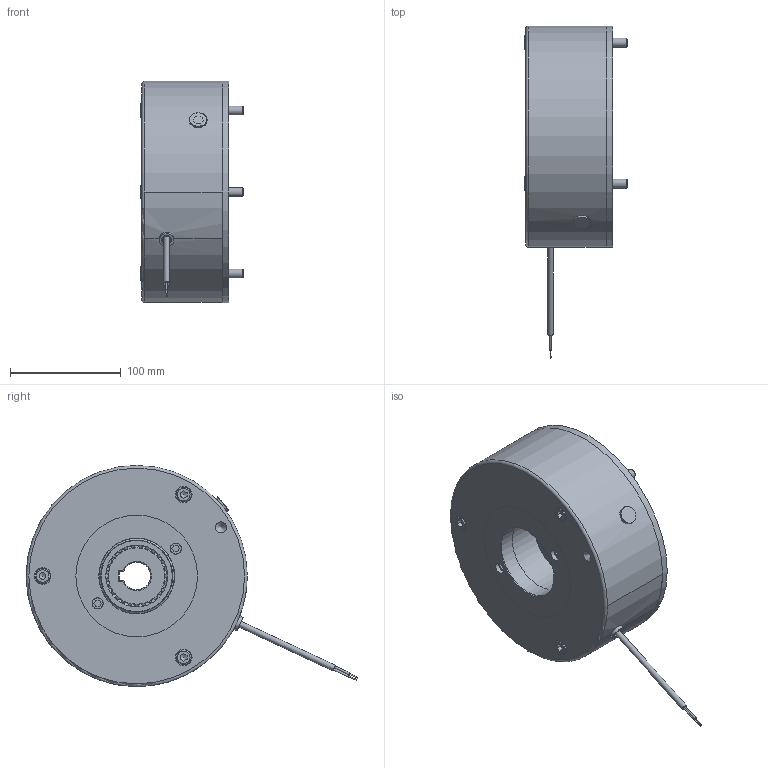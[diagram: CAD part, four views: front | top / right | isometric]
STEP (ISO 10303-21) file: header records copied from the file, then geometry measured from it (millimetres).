
FILE_DESCRIPTION(/* description */ (''),/* implementation_level */ '2;1');
FILE_NAME(/* name */ 'C:\SapWorkDir\Inventor\IP1\ConvertTempPath\5028811_IPT_000.ipt.stp',/* time_stamp */ '2020-09-18T13:30:09+02:00',/* author */ ('STRATE'),/* organization */ (''),/* preprocessor_version */ 'ST-DEVELOPER v17',/* originating_system */ 'Autodesk Inventor 2018',/* authorisation */ '');
FILE_SCHEMA (('AUTOMOTIVE_DESIGN { 1 0 10303 214 3 1 1 }'));
Length unit declared in the file: millimetre
Products named in the file (1): 5028811
Bounding box: 93 x 299.97 x 200 mm (x, y, z)
Volume: 1774811.6 mm3; surface area: 260357.7 mm2
Topology: 4 solids, 4 shells, 455 faces, 1273 edges, 867 vertices
Faces by surface type: cylinder 262, plane 96, cone 72, torus 25
Full cylindrical faces by diameter (mm): 0.01 x1, 1 x2, 1.85 x2, 5 x1, 5.3 x1, 7 x1, 8 x3, 8.2 x3, 8.5 x1, 8.6 x3, 9 x3, 10 x1, 10.106 x2, 13 x3, 13.2 x1, 13.9 x3, 15 x3, 16 x1, 68 x1, 70 x1, 75 x1, 103.8 x2, 110 x1, 149 x1, 189 x1, 196.4 x2, 200 x1
Entity records: 16376 total; most frequent: CARTESIAN_POINT 3837, DIRECTION 2577, ORIENTED_EDGE 2542, EDGE_CURVE 1271, AXIS2_PLACEMENT_3D 1099, VERTEX_POINT 867, CIRCLE 643, EDGE_LOOP 518
